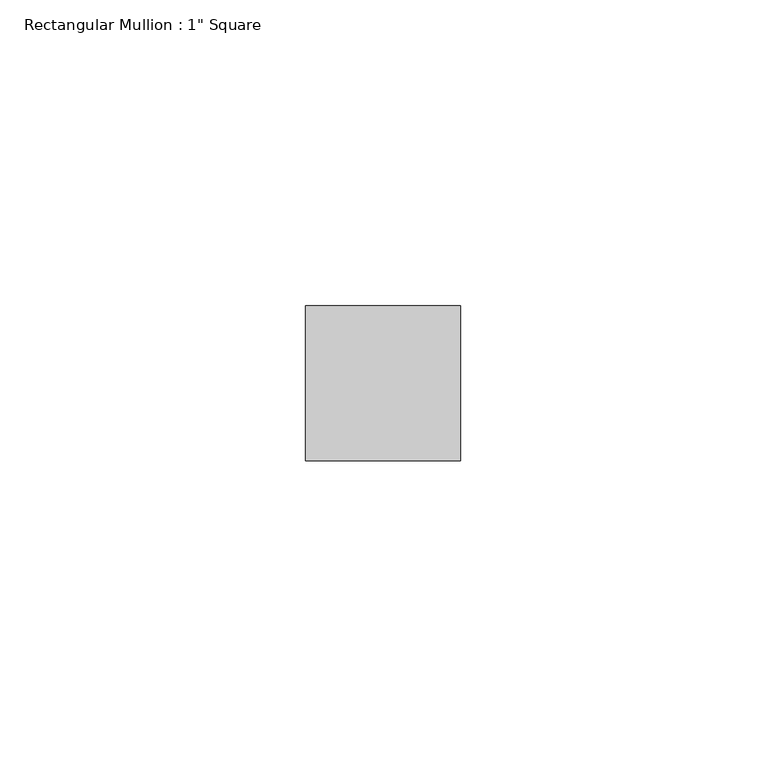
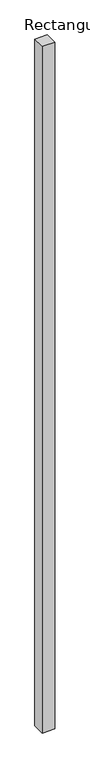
"""IFC4 building model written with IfcOpenShell, lengths in millimetres: member geometry."""

import ifcopenshell
import ifcopenshell.guid

model = None  # the IFC model being written
_history = None  # IfcOwnerHistory: only IFC2X3 demands one
_inside = {}  # id of a spatial element -> (the spatial element, [elements in it])
_under = {}  # id of a project, library or spatial element -> (it, [spatial elements below it])
_declared = {}  # id of a project -> (the project, [libraries it declares])
_typed = {}  # id of a type object -> (the type object, [elements of that type])
_made_of = {}  # id of a material, layer set ... -> (it, [elements and type objects made of it])


def new_model(schema):
    """Start an empty IFC model of exactly this schema.

    Asked for "IFC4X3", IfcOpenShell would pick the latest addendum, in which some entities
    have other attributes; the version numbers below select the first issue.
    IFC2X3 requires an IfcOwnerHistory on every rooted entity: one is made here for all.
    """
    global model, _history
    if schema == "IFC4X3":
        model = ifcopenshell.file(schema_version=(4, 3, 0, 0))
    else:
        model = ifcopenshell.file(schema=schema)
    _inside.clear()
    _under.clear()
    _declared.clear()
    _typed.clear()
    _made_of.clear()
    _history = None
    if model.schema == "IFC2X3":
        org = make("IfcOrganization", Name="unknown")
        user = make(
            "IfcPersonAndOrganization",
            ThePerson=make("IfcPerson", FamilyName="unknown"),
            TheOrganization=org,
        )
        app = make(
            "IfcApplication",
            ApplicationDeveloper=org,
            Version="unknown",
            ApplicationFullName="unknown",
            ApplicationIdentifier="unknown",
        )
        _history = make(
            "IfcOwnerHistory",
            OwningUser=user,
            OwningApplication=app,
            ChangeAction="ADDED",
            CreationDate=0,
        )
    return model


def make(cls, **values):
    """One entity of the class cls with the attributes given. An attribute that is None is left unset."""
    return model.create_entity(
        cls, **{name: value for name, value in values.items() if value is not None}
    )


def rooted(cls, **values):
    """An entity with a GlobalId (a new one), such as an element, a storey or a relation."""
    return make(cls, GlobalId=ifcopenshell.guid.new(), OwnerHistory=_history, **values)


def si_unit(unit_type, name, prefix=None):
    """IfcSIUnit, for example si_unit("LENGTHUNIT", "METRE", prefix="MILLI")."""
    return make("IfcSIUnit", UnitType=unit_type, Prefix=prefix, Name=name)


def assignment(units):
    """IfcUnitAssignment: the units of a project."""
    return None if units is None else make("IfcUnitAssignment", Units=units)


def point(xyz):
    """IfcCartesianPoint."""
    return None if xyz is None else make("IfcCartesianPoint", Coordinates=xyz)


def direction(xyz):
    """IfcDirection."""
    return None if xyz is None else make("IfcDirection", DirectionRatios=xyz)


def frame(location, z_axis=None, x_axis=None):
    """IfcAxis2Placement3D, a coordinate frame: its origin and axes. An axis left out is left unset."""
    return make(
        "IfcAxis2Placement3D",
        Location=point(location),
        Axis=direction(z_axis),
        RefDirection=direction(x_axis),
    )


def origin():
    """The frame at (0, 0, 0) with its axes left unset."""
    return frame((0.0, 0.0, 0.0))


def place(relative_to, where):
    """IfcLocalPlacement: puts the frame where relative to a parent placement (None: the world)."""
    return make(
        "IfcLocalPlacement", PlacementRelTo=relative_to, RelativePlacement=where
    )


def context(
    kind, dimensions, precision=None, world=None, true_north=None, identifier=None
):
    """IfcGeometricRepresentationContext, for example the 3D "Model" context."""
    return make(
        "IfcGeometricRepresentationContext",
        ContextIdentifier=identifier,
        ContextType=kind,
        CoordinateSpaceDimension=dimensions,
        Precision=precision,
        WorldCoordinateSystem=world,
        TrueNorth=true_north,
    )


def project(units=None, contexts=None):
    """IfcProject with its units and contexts."""
    return rooted(
        "IfcProject",
        Name="project",
        RepresentationContexts=contexts,
        UnitsInContext=assignment(units),
    )


def spatial(cls, under=None, at=None, **own):
    """A site, building, storey or space (cls), placed at a placement, below another one or the project."""
    s = rooted(cls, ObjectPlacement=at, **own)
    if under is not None:
        _under.setdefault(under.id(), (under, []))[1].append(s)
    return s


def polyline(points):
    """IfcPolyline through the points."""
    return make("IfcPolyline", Points=[point(p) for p in points])


def outline(outer, holes=None, kind="AREA"):
    """IfcArbitraryClosedProfileDef: a profile drawn as a closed curve; with holes, ...WithVoids."""
    if holes is None:
        return make("IfcArbitraryClosedProfileDef", ProfileType=kind, OuterCurve=outer)
    return make(
        "IfcArbitraryProfileDefWithVoids",
        ProfileType=kind,
        OuterCurve=outer,
        InnerCurves=holes,
    )


def extrude(swept, where, along, depth):
    """IfcExtrudedAreaSolid: the profile swept, set in the frame where, extruded along a direction by depth."""
    return make(
        "IfcExtrudedAreaSolid",
        SweptArea=swept,
        Position=where,
        ExtrudedDirection=direction(along),
        Depth=depth,
    )


def shape(context_of_items, identifier, shape_type, items):
    """IfcShapeRepresentation: the items that make up one representation, for example the "Body"."""
    return make(
        "IfcShapeRepresentation",
        ContextOfItems=context_of_items,
        RepresentationIdentifier=identifier,
        RepresentationType=shape_type,
        Items=items,
    )


def source(mapping_origin, context_of_items, identifier, shape_type, items):
    """IfcRepresentationMap: a shape defined once, which mapped items show again and again."""
    return make(
        "IfcRepresentationMap",
        MappingOrigin=mapping_origin,
        MappedRepresentation=shape(context_of_items, identifier, shape_type, items),
    )


def transform(
    local_origin,
    x_axis=None,
    y_axis=None,
    z_axis=None,
    scale=None,
    scale2=None,
    scale3=None,
    uniform=True,
):
    """IfcCartesianTransformationOperator3D, or its non-uniform kind. x_axis, y_axis, z_axis: its Axis1, 2, 3."""
    if uniform:
        return make(
            "IfcCartesianTransformationOperator3D",
            Axis1=direction(x_axis),
            Axis2=direction(y_axis),
            LocalOrigin=point(local_origin),
            Scale=scale,
            Axis3=direction(z_axis),
        )
    return make(
        "IfcCartesianTransformationOperator3DnonUniform",
        Axis1=direction(x_axis),
        Axis2=direction(y_axis),
        LocalOrigin=point(local_origin),
        Scale=scale,
        Axis3=direction(z_axis),
        Scale2=scale2,
        Scale3=scale3,
    )


def mapped(mapping_source, mapping_target):
    """IfcMappedItem: shows the shape of a source again, moved by a transform."""
    return make(
        "IfcMappedItem", MappingSource=mapping_source, MappingTarget=mapping_target
    )


def made_of(thing, what):
    """Note that an element or type object is made of a material, layer set ...; save() writes the relation."""
    if what is not None:
        _made_of.setdefault(what.id(), (what, []))[1].append(thing)
    return thing


def element(
    cls,
    number,
    at=None,
    inside=None,
    cuts=None,
    type_object=None,
    material=None,
    context=None,
    identifier="Body",
    shape_type=None,
    held_by="IfcProductDefinitionShape",
    body=None,
    shapes=None,
    **own,
):
    """One element of the class cls, such as IfcWall. Its Tag is "e" and its number.

    at: its placement. inside: the storey or other place that contains it. cuts: it is an
    opening in that element (IfcRelVoidsElement). A single representation is given by context,
    identifier, shape_type and body (its items); several are given by shapes. held_by: the class
    of the entity that holds the representations. save() writes the other relations.
    """
    e = rooted(cls, Tag="e%d" % number, ObjectPlacement=at, **own)
    if body is not None:
        shapes = [shape(context, identifier, shape_type, body)]
    if shapes is not None:
        e.Representation = make(held_by, Representations=shapes)
    if inside is not None:
        _inside.setdefault(inside.id(), (inside, []))[1].append(e)
    if cuts is not None:
        rooted(
            "IfcRelVoidsElement", RelatingBuildingElement=cuts, RelatedOpeningElement=e
        )
    if type_object is not None:
        _typed.setdefault(type_object.id(), (type_object, []))[1].append(e)
    return made_of(e, material)


def aggregate(whole, parts):
    """IfcRelAggregates: a whole, such as a stair, and the parts it consists of."""
    return rooted("IfcRelAggregates", RelatingObject=whole, RelatedObjects=parts)


def save(model, path):
    """Write the relations noted so far, then the file.

    IfcRelAggregates (storeys below a building ...), IfcRelContainedInSpatialStructure (elements
    in a storey), IfcRelDefinesByType, IfcRelAssociatesMaterial and IfcRelDeclares: one each for
    every whole, place, type object, material and project.
    """
    for whole, parts in _under.values():
        aggregate(whole, parts)
    for where, things in _inside.values():
        rooted(
            "IfcRelContainedInSpatialStructure",
            RelatedElements=things,
            RelatingStructure=where,
        )
    for kind, things in _typed.values():
        rooted("IfcRelDefinesByType", RelatedObjects=things, RelatingType=kind)
    for what, things in _made_of.values():
        rooted("IfcRelAssociatesMaterial", RelatedObjects=things, RelatingMaterial=what)
    for by, libraries in _declared.values():
        rooted("IfcRelDeclares", RelatingContext=by, RelatedDefinitions=libraries)
    model.write(path)


def member_f9960f3d(model_context):
    return source(origin(), model_context, "Body", "SweptSolid", [
        extrude(outline(polyline([(12.7, 12.7), (12.7, -12.7), (-12.7, -12.7), (-12.7, 12.7), (12.7, 12.7)])), frame((0.0, 0.0, -1473.9307635), z_axis=(0.0, 0.0, 1.0), x_axis=(1.0, 0.0, 0.0)), (0.0, 0.0, 1.0), 1473.9307635),
    ])


if __name__ == "__main__":
    model = new_model("IFC4")
    model_context = context("Model", 3, world=origin())
    ifc_project = project(units=[si_unit("LENGTHUNIT", "METRE", prefix="MILLI")], contexts=[model_context])
    site = spatial("IfcSite", under=ifc_project)
    building = spatial("IfcBuilding", under=site)
    placement = place(None, origin())
    member_shape = member_f9960f3d(model_context)
    element("IfcMember", 1, ObjectType="Rectangular Mullion : 1\" Square", at=placement, inside=building, context=model_context, shape_type="MappedRepresentation", body=[
        mapped(member_shape, transform((0.0, 0.0, 0.0), x_axis=(1.0, 0.0, 0.0), y_axis=(0.0, 1.0, 0.0), z_axis=(0.0, 0.0, 1.0))),
    ])
    save(model, "model.ifc")
